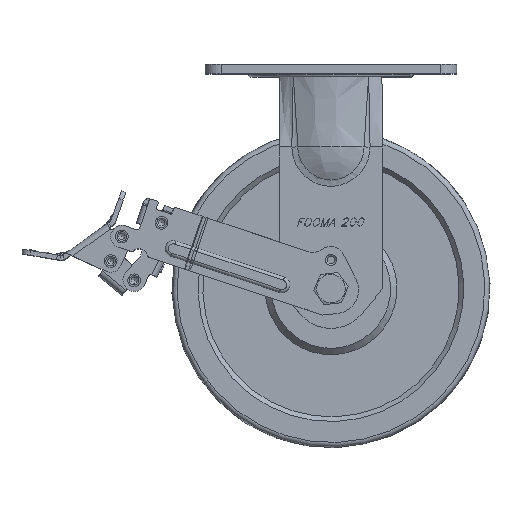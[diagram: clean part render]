
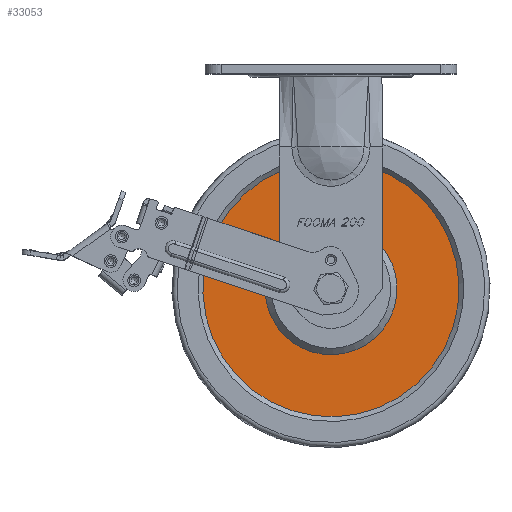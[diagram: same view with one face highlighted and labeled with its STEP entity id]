
A CAD part, top view. The second image highlights one B-rep face of the part: STEP entity #33053.
In plain terms, the highlighted planar face has unit normal (0, 0, 1).
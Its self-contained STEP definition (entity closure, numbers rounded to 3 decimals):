
#7898=FACE_BOUND('',#11525,.T.);
#9605=FACE_OUTER_BOUND('',#11524,.T.);
#11524=EDGE_LOOP('',(#28458));
#11525=EDGE_LOOP('',(#28459));
#12290=CIRCLE('',#35541,80.5);
#12291=CIRCLE('',#35543,41.5);
#15204=VERTEX_POINT('',#55918);
#15205=VERTEX_POINT('',#55921);
#19629=EDGE_CURVE('',#15204,#15204,#12290,.T.);
#19630=EDGE_CURVE('',#15205,#15205,#12291,.T.);
#28458=ORIENTED_EDGE('',*,*,#19629,.T.);
#28459=ORIENTED_EDGE('',*,*,#19630,.F.);
#29649=PLANE('',#35542);
#33053=ADVANCED_FACE('',(#9605,#7898),#29649,.T.);
#35541=AXIS2_PLACEMENT_3D('',#55919,#43917,#43918);
#35542=AXIS2_PLACEMENT_3D('',#55920,#43919,#43920);
#35543=AXIS2_PLACEMENT_3D('',#55922,#43921,#43922);
#43917=DIRECTION('center_axis',(0.,0.,
1.));
#43918=DIRECTION('ref_axis',(0.213,-0.977,0.));
#43919=DIRECTION('center_axis',(0.,0.,
1.));
#43920=DIRECTION('ref_axis',(0.213,-0.977,0.));
#43921=DIRECTION('center_axis',(0.,0.,
1.));
#43922=DIRECTION('ref_axis',(0.213,-0.977,0.));
#55918=CARTESIAN_POINT('',(69.292,-115.497,21.));
#55919=CARTESIAN_POINT('Origin',(-9.363,-132.63,21.));
#55920=CARTESIAN_POINT('Origin',(31.186,-123.797,21.));
#55921=CARTESIAN_POINT('',(31.186,-123.797,21.));
#55922=CARTESIAN_POINT('Origin',(-9.363,-132.63,21.));
